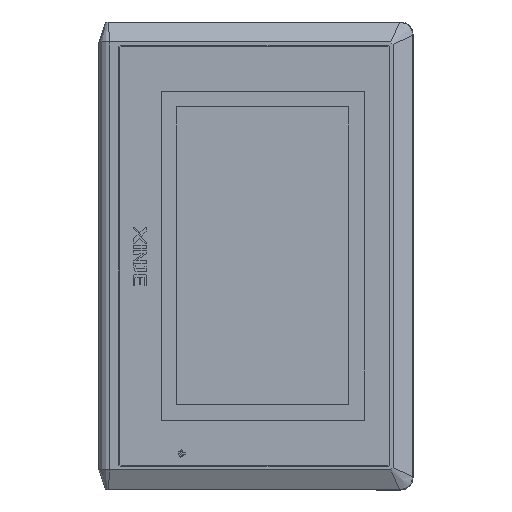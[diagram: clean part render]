
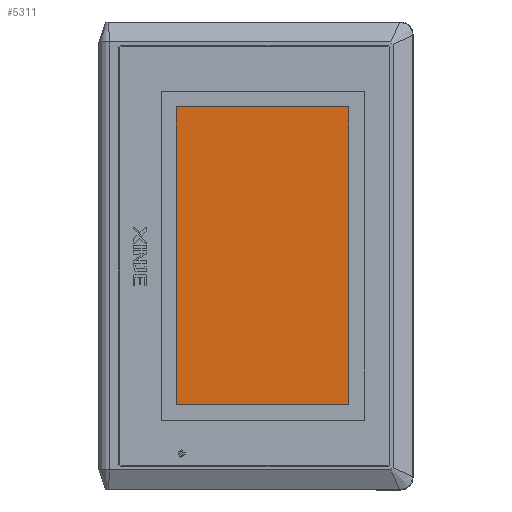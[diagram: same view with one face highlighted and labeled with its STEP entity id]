
A CAD part, top view. The second image highlights one B-rep face of the part: STEP entity #5311.
In plain terms, the highlighted planar face has unit normal (0, 0, 1).
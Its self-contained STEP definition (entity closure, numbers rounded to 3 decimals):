
#368=PLANE('',#19791);
#2458=B_SPLINE_CURVE_WITH_KNOTS('',3,(#43822,#43823,#43824,#43825),
 .UNSPECIFIED.,.F.,.F.,(4,4),(0.75,1.),.UNSPECIFIED.);
#2462=B_SPLINE_CURVE_WITH_KNOTS('',3,(#43834,#43835,#43836,#43837),
 .UNSPECIFIED.,.F.,.F.,(4,4),(0.5,0.75),.UNSPECIFIED.);
#2465=B_SPLINE_CURVE_WITH_KNOTS('',3,(#43844,#43845,#43846,#43847),
 .UNSPECIFIED.,.F.,.F.,(4,4),(0.25,0.5),.UNSPECIFIED.);
#2467=B_SPLINE_CURVE_WITH_KNOTS('',3,(#43852,#43853,#43854,#43855),
 .UNSPECIFIED.,.F.,.F.,(4,4),(0.,0.25),.UNSPECIFIED.);
#5311=ADVANCED_FACE('',(#6141),#368,.T.);
#6141=FACE_OUTER_BOUND('',#7006,.T.);
#7006=EDGE_LOOP('',(#10458,#10459,#10460,#10461));
#10458=ORIENTED_EDGE('',*,*,#14336,.F.);
#10459=ORIENTED_EDGE('',*,*,#14340,.F.);
#10460=ORIENTED_EDGE('',*,*,#14343,.F.);
#10461=ORIENTED_EDGE('',*,*,#14345,.F.);
#14336=EDGE_CURVE('',#18822,#18823,#2458,.T.);
#14340=EDGE_CURVE('',#18825,#18822,#2462,.T.);
#14343=EDGE_CURVE('',#18827,#18825,#2465,.T.);
#14345=EDGE_CURVE('',#18823,#18827,#2467,.T.);
#18822=VERTEX_POINT('',#43810);
#18823=VERTEX_POINT('',#43811);
#18825=VERTEX_POINT('',#43813);
#18827=VERTEX_POINT('',#43815);
#19791=AXIS2_PLACEMENT_3D('',#43807,#20087,$);
#20087=DIRECTION('',(0.,0.,1.));
#43807=CARTESIAN_POINT('',(-32.217,-58.737,6.));
#43810=CARTESIAN_POINT('',(-25.85,48.4,6.));
#43811=CARTESIAN_POINT('',(30.15,48.4,6.));
#43813=CARTESIAN_POINT('',(-25.85,-48.3,6.));
#43815=CARTESIAN_POINT('',(30.15,-48.3,6.));
#43822=CARTESIAN_POINT('',(-25.85,48.4,6.));
#43823=CARTESIAN_POINT('',(-25.85,48.4,6.));
#43824=CARTESIAN_POINT('',(30.15,48.4,6.));
#43825=CARTESIAN_POINT('',(30.15,48.4,6.));
#43834=CARTESIAN_POINT('',(-25.85,-48.3,6.));
#43835=CARTESIAN_POINT('',(-25.85,-48.3,6.));
#43836=CARTESIAN_POINT('',(-25.85,48.4,6.));
#43837=CARTESIAN_POINT('',(-25.85,48.4,6.));
#43844=CARTESIAN_POINT('',(30.15,-48.3,6.));
#43845=CARTESIAN_POINT('',(30.15,-48.3,6.));
#43846=CARTESIAN_POINT('',(-25.85,-48.3,6.));
#43847=CARTESIAN_POINT('',(-25.85,-48.3,6.));
#43852=CARTESIAN_POINT('',(30.15,48.4,6.));
#43853=CARTESIAN_POINT('',(30.15,48.4,6.));
#43854=CARTESIAN_POINT('',(30.15,-48.3,6.));
#43855=CARTESIAN_POINT('',(30.15,-48.3,6.));
